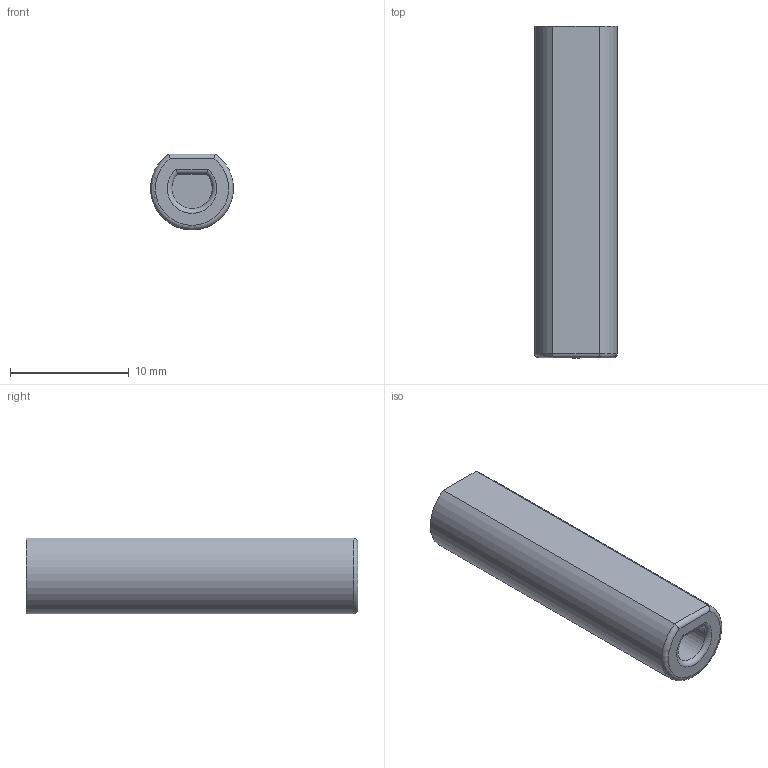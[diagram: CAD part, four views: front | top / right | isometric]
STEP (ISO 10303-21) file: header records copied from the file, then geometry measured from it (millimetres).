
FILE_DESCRIPTION(('Open CASCADE Model'),'2;1');
FILE_NAME('Open CASCADE Shape Model','2026-11-09T05:26:20',('Author'),( 'Open CASCADE'),'Open CASCADE STEP processor 8.0','build123d', 'Unknown');
FILE_SCHEMA(('AUTOMOTIVE_DESIGN { 1 0 10303 214 1 1 1 1 }'));
Length unit declared in the file: millimetre
Products named in the file (1): COMPOUND
Bounding box: 6.99 x 27.98 x 6.4 mm (x, y, z)
Volume: 912.4 mm3; surface area: 838.2 mm2
Topology: 1 solids, 1 shells, 13 faces, 23 edges, 14 vertices
Faces by surface type: plane 6, cylinder 5, torus 2
Full cylindrical faces by diameter (mm): 2.5 x1
Entity records: 754 total; most frequent: CARTESIAN_POINT 283, DIRECTION 79, ORIENTED_EDGE 46, PCURVE 46, DEFINITIONAL_REPRESENTATION 46, LINE 31, VECTOR 31, B_SPLINE_CURVE_WITH_KNOTS 24
